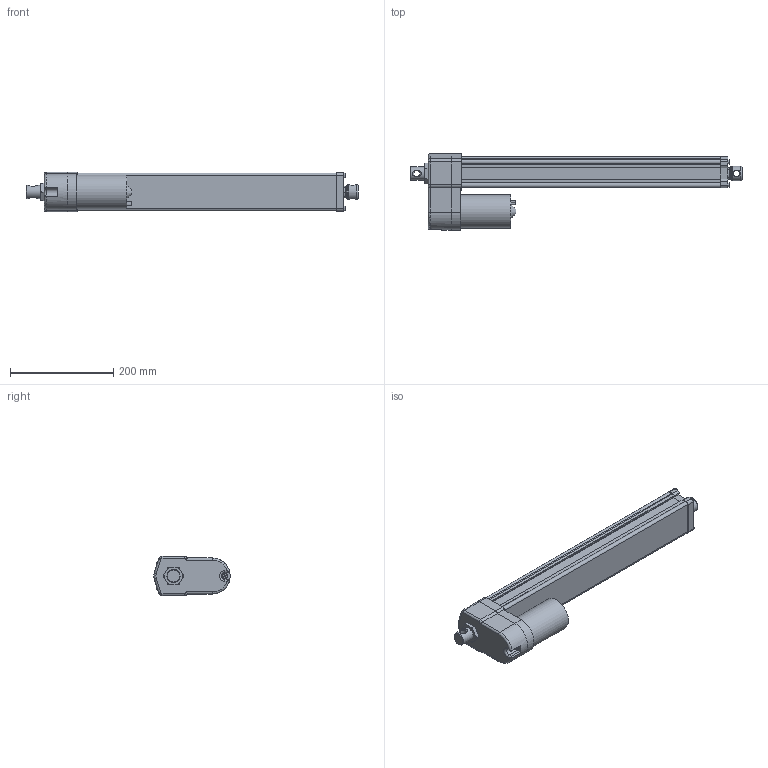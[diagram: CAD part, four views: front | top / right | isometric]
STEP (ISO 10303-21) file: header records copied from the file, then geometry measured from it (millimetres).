
FILE_DESCRIPTION( ( 'STEP AP203' ), '1' );
FILE_NAME( 'p:/temp/worker_332/temp/exporttempdir_432_760_Hhd5c/format_0/DA12-21B65M35M0N-AMM.stp', '2020-04-12T13:24:08', ( 'License CC BY-ND 4.0' ), ( 'CADENAS' ), ' ', 'PARTsolutions', ' ' );
FILE_SCHEMA( ( 'CONFIG_CONTROL_DESIGN' ) );
Length unit declared in the file: millimetre
Products named in the file (8): DA12-21B65M35M0N-AMM; _ELECTRAK-LA14-DA12-21B65MM0N-35M-EU-REAR; _Electrak-10-EU-RA-D602700; _D602768eu; _ELECTRAK-LA14-DA12--MOTOR; _DA12-21B65M35M0NAMMtube; _ELECTRAK-LA14-DA12--35-PLATE; _ELECTRAK-LA14-DA12--3521B65MNM-ROD
Assembly tree (7 placements, depth 2):
  DA12-21B65M35M0N-AMM
    _ELECTRAK-LA14-DA12-21B65MM0N-35M-EU-REAR
    _Electrak-10-EU-RA-D602700
    _D602768eu
    _ELECTRAK-LA14-DA12--MOTOR
    _DA12-21B65M35M0NAMMtube
    _ELECTRAK-LA14-DA12--35-PLATE
    _ELECTRAK-LA14-DA12--3521B65MNM-ROD
Bounding box: 643.95 x 148 x 76.2 mm (x, y, z)
Volume: 1850535.7 mm3; surface area: 494026.4 mm2
Topology: 7 solids, 8 shells, 378 faces, 942 edges, 610 vertices
Faces by surface type: plane 183, cylinder 131, cone 46, torus 14, bspline 4
Full cylindrical faces by diameter (mm): 4 x2, 4.126 x1, 4.8 x6, 5 x5, 5.6 x4, 7.878 x4, 9.398 x1, 12.2 x2, 16 x1, 21.8 x1, 25.2 x1, 25.4 x1, 26.24 x1, 28.5 x1, 28.6 x2, 47.625 x1, 65.3 x1
Entity records: 11834 total; most frequent: CARTESIAN_POINT 2729, DIRECTION 1869, ORIENTED_EDGE 1744, EDGE_CURVE 872, AXIS2_PLACEMENT_3D 702, VERTEX_POINT 602, EDGE_LOOP 485, LINE 465
